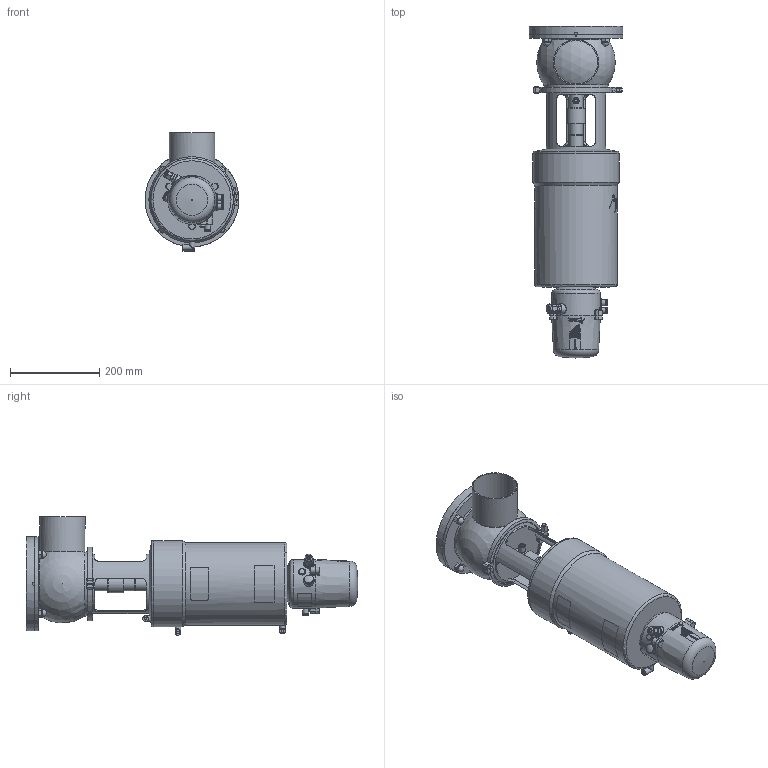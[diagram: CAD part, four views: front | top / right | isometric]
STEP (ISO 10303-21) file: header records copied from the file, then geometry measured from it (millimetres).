
FILE_DESCRIPTION (( 'STEP AP214' ), '1' );
FILE_NAME ('INNOVA T L W OD 4 WITH FLANGE & C-TOP S_10.252.16.0007.STEP', '2024-08-20T12:56:47', ( '' ), ( '' ), 'SwSTEP 2.0', 'SolidWorks 2023', '' );
FILE_SCHEMA (( 'AUTOMOTIVE_DESIGN' ));
Length unit declared in the file: millimetre
Products named in the file (7): 10.240.15.0001_DN 100; 10.426.15.0001_C-TOP S - 3 EV; INNOVA T L W OD 4 WITH FLANGE & C-TOP S_10.252.16.0007; 10.248.15.0003_DIN 100 _ OD 4"; 10.252.15.0001_OD 4"; 10.250.15.0002_Type T T3; 10.240.15.0006_OD 4"
Assembly tree (6 placements, depth 2):
  INNOVA T L W OD 4 WITH FLANGE & C-TOP S_10.252.16.0007
    10.240.15.0006_OD 4"
    10.248.15.0003_DIN 100 _ OD 4"
    10.252.15.0001_OD 4"
    10.250.15.0002_Type T T3
    10.240.15.0001_DN 100
    10.426.15.0001_C-TOP S - 3 EV
Bounding box: 210 x 743 x 265 mm (x, y, z)
Volume: 13622476.4 mm3; surface area: 773707.8 mm2
Topology: 6 solids, 6 shells, 1196 faces, 2885 edges, 1920 vertices
Faces by surface type: plane 416, cylinder 379, cone 196, bspline 162, torus 33, sphere 10
Full cylindrical faces by diameter (mm): 0.371 x17, 0.512 x16, 0.658 x16, 0.795 x16, 0.94 x15, 1.098 x15, 1.241 x13, 1.382 x13, 1.523 x11, 1.669 x10, 2.201 x1, 4.2 x2, 5 x1, 5.5 x2, 6 x5, 6.15 x3, 8 x3, 10 x1, 10.5 x3, 11 x4, 12 x1, 12.5 x9, 13 x6, 13.5 x2, 14 x2, 16 x4, 17 x3, 20 x2, 22 x2, 30.5 x2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
Entity records: 61497 total; most frequent: CARTESIAN_POINT 29302, ORIENTED_EDGE 4868, DIRECTION 4001, EDGE_CURVE 2434, VERTEX_POINT 1732, EDGE_LOOP 1688, AXIS2_PLACEMENT_3D 1620, FACE_OUTER_BOUND 1427
